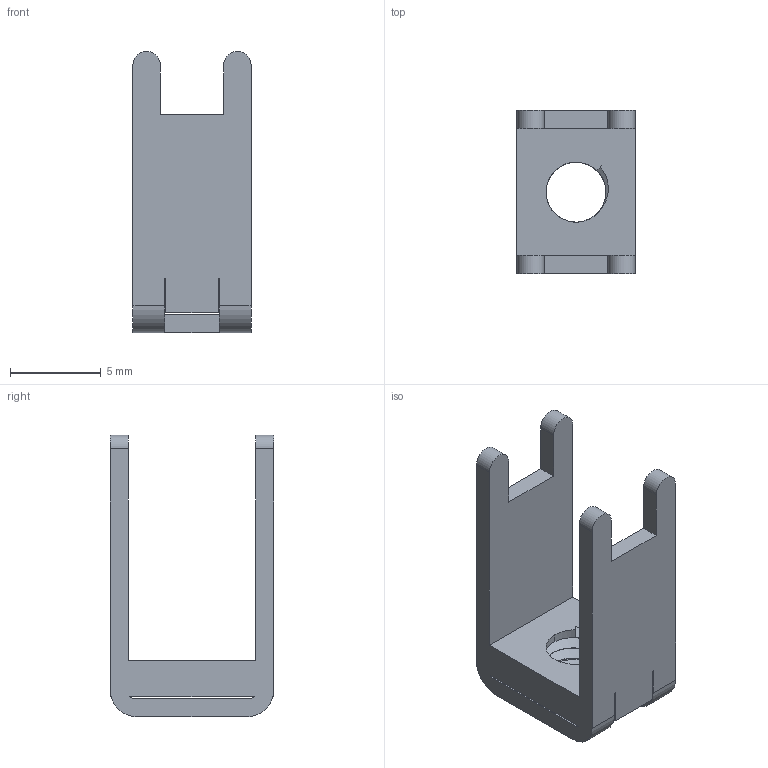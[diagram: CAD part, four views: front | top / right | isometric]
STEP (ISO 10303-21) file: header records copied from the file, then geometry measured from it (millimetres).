
FILE_DESCRIPTION((''),'2;1');
FILE_NAME('AMT0430015DB0000G','2023-12-26T21:06:15',('guoxue_sz'),(''),'CREO PARAMETRIC BY PTC INC, 2016390','CREO PARAMETRIC BY PTC INC, 2016390','');
FILE_SCHEMA(('CONFIG_CONTROL_DESIGN'));
Length unit declared in the file: metre
Products named in the file (1): AMT0430015DB0000G
Bounding box: 6.5 x 9 x 15.5 mm (x, y, z)
Volume: 265.3 mm3; surface area: 666.3 mm2
Topology: 1 solids, 1 shells, 63 faces, 198 edges, 133 vertices
Faces by surface type: plane 35, cylinder 19, bspline 8, cone 1
Entity records: 3985 total; most frequent: CARTESIAN_POINT 2234, ORIENTED_EDGE 396, DIRECTION 301, EDGE_CURVE 198, VERTEX_POINT 133, VECTOR 129, LINE 129, AXIS2_PLACEMENT_3D 86
